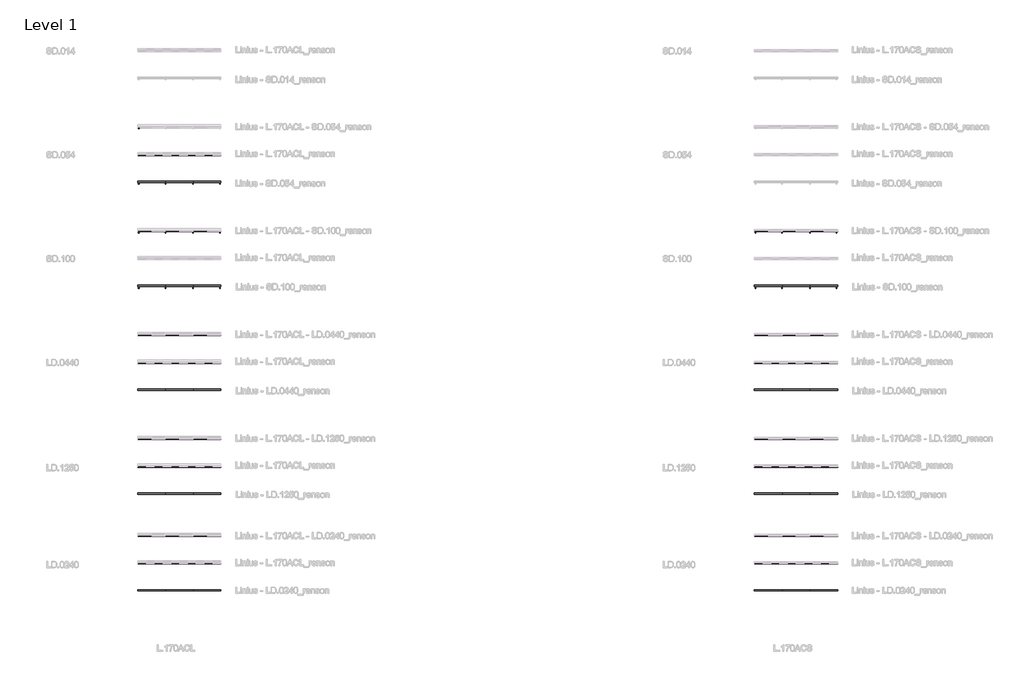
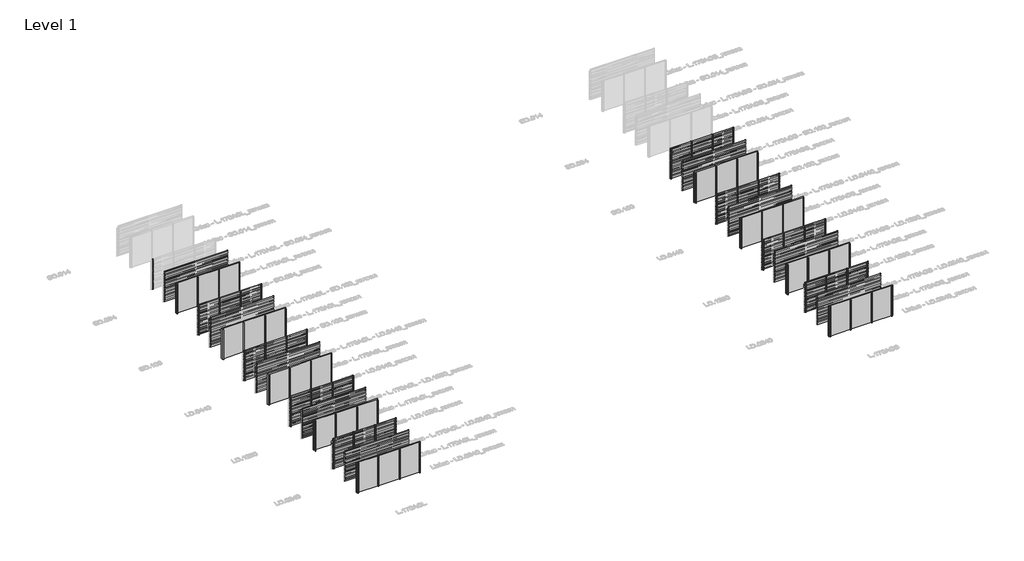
# One storey, part 1 of 121: 69 members, 60 plates.
"""IFC4 building model written with IfcOpenShell, lengths in millimetres."""

from ifc_helpers import new_model, si_unit, origin, origin_with_axes, place, context, project, spatial, polyline, outline, extrude, transform, mapped, element, save
from components import rectangular_mullion_6cf2c509, rectangular_mullion_8b77bd57, rectangular_mullion_2c867e25, rectangular_mullion_7803f5c4, rectangular_mullion_82152e2f, rectangular_mullion_9b796d85, rectangular_mullion_dfb17e98, rectangular_mullion_6132f1f1, rectangular_mullion_8f153c19, rectangular_mullion_5b30f3fd, rectangular_mullion_5e0e8e0a, rectangular_mullion_d2d38772, rectangular_mullion_efb80f74, rectangular_mullion_aaa1fb1b, rectangular_mullion_ea9d012c, empty_system_panel_empty_90a97279

model = new_model("IFC4")

# Units and contexts
model_context = context("Model", 3, world=origin())
ifc_project = project(units=[si_unit("LENGTHUNIT", "METRE", prefix="MILLI")], contexts=[model_context])

# Site, building, storey
site = spatial("IfcSite", under=ifc_project)
building = spatial("IfcBuilding", under=site)
storey = spatial("IfcBuildingStorey", under=building, Name="Level 1", Elevation=0.0)

# Members
placement = place(None, origin())
rectangular_mullion_shape = rectangular_mullion_6cf2c509(model_context)
element("IfcMember", 1, ObjectType="Rectangular Mullion : SD.054_renson", at=placement, inside=storey, context=model_context, shape_type="MappedRepresentation", body=[
    mapped(rectangular_mullion_shape, transform((4466.6208097, 32481.0540136, 0.0), x_axis=(-1.0, 0.0, 0.0), y_axis=(0.0, 1.0, 0.0), z_axis=(0.0, 0.0, -1.0))),
])
element("IfcMember", 2, ObjectType="Rectangular Mullion : SD.054_renson", at=placement, inside=storey, context=model_context, shape_type="MappedRepresentation", body=[
    mapped(rectangular_mullion_shape, transform((2466.6208097, 32481.0540136, 0.0), x_axis=(-1.0, 0.0, 0.0), y_axis=(0.0, 1.0, 0.0), z_axis=(0.0, 0.0, -1.0))),
])
rectangular_mullion_2_shape = rectangular_mullion_8b77bd57(model_context)
element("IfcMember", 3, ObjectType="Rectangular Mullion : SD.100_renson", at=placement, inside=storey, context=model_context, shape_type="MappedRepresentation", body=[
    mapped(rectangular_mullion_2_shape, transform((4466.6208097, 28981.0540136, 0.0), x_axis=(-1.0, 0.0, 0.0), y_axis=(0.0, 1.0, 0.0), z_axis=(0.0, 0.0, -1.0))),
])
element("IfcMember", 4, ObjectType="Rectangular Mullion : SD.100_renson", at=placement, inside=storey, context=model_context, shape_type="MappedRepresentation", body=[
    mapped(rectangular_mullion_2_shape, transform((2466.6208097, 28981.0540136, 0.0), x_axis=(-1.0, 0.0, 0.0), y_axis=(0.0, 1.0, 0.0), z_axis=(0.0, 0.0, -1.0))),
])
element("IfcMember", 5, ObjectType="Rectangular Mullion : SD.100_renson", at=placement, inside=storey, context=model_context, shape_type="MappedRepresentation", body=[
    mapped(rectangular_mullion_2_shape, transform((4466.6208097, 24981.0540136, 0.0), x_axis=(-1.0, 0.0, 0.0), y_axis=(0.0, 1.0, 0.0), z_axis=(0.0, 0.0, -1.0))),
])
element("IfcMember", 6, ObjectType="Rectangular Mullion : SD.100_renson", at=placement, inside=storey, context=model_context, shape_type="MappedRepresentation", body=[
    mapped(rectangular_mullion_2_shape, transform((2466.6208097, 24981.0540136, 0.0), x_axis=(-1.0, 0.0, 0.0), y_axis=(0.0, 1.0, 0.0), z_axis=(0.0, 0.0, -1.0))),
])
element("IfcMember", 7, ObjectType="Rectangular Mullion : SD.100_renson", at=placement, inside=storey, context=model_context, shape_type="MappedRepresentation", body=[
    mapped(rectangular_mullion_2_shape, transform((48966.6208097, 28981.0540136, 0.0), x_axis=(-1.0, 0.0, 0.0), y_axis=(0.0, 1.0, 0.0), z_axis=(0.0, 0.0, -1.0))),
])
element("IfcMember", 8, ObjectType="Rectangular Mullion : SD.100_renson", at=placement, inside=storey, context=model_context, shape_type="MappedRepresentation", body=[
    mapped(rectangular_mullion_2_shape, transform((46966.6208097, 28981.0540136, 0.0), x_axis=(-1.0, 0.0, 0.0), y_axis=(0.0, 1.0, 0.0), z_axis=(0.0, 0.0, -1.0))),
])
element("IfcMember", 9, ObjectType="Rectangular Mullion : SD.100_renson", at=placement, inside=storey, context=model_context, shape_type="MappedRepresentation", body=[
    mapped(rectangular_mullion_2_shape, transform((48966.6208097, 24981.0540136, 0.0), x_axis=(-1.0, 0.0, 0.0), y_axis=(0.0, 1.0, 0.0), z_axis=(0.0, 0.0, -1.0))),
])
element("IfcMember", 10, ObjectType="Rectangular Mullion : SD.100_renson", at=placement, inside=storey, context=model_context, shape_type="MappedRepresentation", body=[
    mapped(rectangular_mullion_2_shape, transform((46966.6208097, 24981.0540136, 0.0), x_axis=(-1.0, 0.0, 0.0), y_axis=(0.0, 1.0, 0.0), z_axis=(0.0, 0.0, -1.0))),
])
rectangular_mullion_3_shape = rectangular_mullion_2c867e25(model_context)
element("IfcMember", 11, ObjectType="Rectangular Mullion : LD.0440_renson", at=placement, inside=storey, context=model_context, shape_type="MappedRepresentation", body=[
    mapped(rectangular_mullion_3_shape, transform((4466.6208097, 21481.0540136, 0.0), x_axis=(-1.0, 0.0, 0.0), y_axis=(0.0, 1.0, 0.0), z_axis=(0.0, 0.0, -1.0))),
])
element("IfcMember", 12, ObjectType="Rectangular Mullion : LD.0440_renson", at=placement, inside=storey, context=model_context, shape_type="MappedRepresentation", body=[
    mapped(rectangular_mullion_3_shape, transform((2466.6208097, 21481.0540136, 0.0), x_axis=(-1.0, 0.0, 0.0), y_axis=(0.0, 1.0, 0.0), z_axis=(0.0, 0.0, -1.0))),
])
element("IfcMember", 13, ObjectType="Rectangular Mullion : LD.0440_renson", at=placement, inside=storey, context=model_context, shape_type="MappedRepresentation", body=[
    mapped(rectangular_mullion_3_shape, transform((4466.6208097, 17481.0540136, 0.0), x_axis=(-1.0, 0.0, 0.0), y_axis=(0.0, 1.0, 0.0), z_axis=(0.0, 0.0, -1.0))),
])
element("IfcMember", 14, ObjectType="Rectangular Mullion : LD.0440_renson", at=placement, inside=storey, context=model_context, shape_type="MappedRepresentation", body=[
    mapped(rectangular_mullion_3_shape, transform((2466.6208097, 17481.0540136, 0.0), x_axis=(-1.0, 0.0, 0.0), y_axis=(0.0, 1.0, 0.0), z_axis=(0.0, 0.0, -1.0))),
])
element("IfcMember", 15, ObjectType="Rectangular Mullion : LD.0440_renson", at=placement, inside=storey, context=model_context, shape_type="MappedRepresentation", body=[
    mapped(rectangular_mullion_3_shape, transform((48966.6208097, 21481.0540136, 0.0), x_axis=(-1.0, 0.0, 0.0), y_axis=(0.0, 1.0, 0.0), z_axis=(0.0, 0.0, -1.0))),
])
element("IfcMember", 16, ObjectType="Rectangular Mullion : LD.0440_renson", at=placement, inside=storey, context=model_context, shape_type="MappedRepresentation", body=[
    mapped(rectangular_mullion_3_shape, transform((46966.6208097, 21481.0540136, 0.0), x_axis=(-1.0, 0.0, 0.0), y_axis=(0.0, 1.0, 0.0), z_axis=(0.0, 0.0, -1.0))),
])
element("IfcMember", 17, ObjectType="Rectangular Mullion : LD.0440_renson", at=placement, inside=storey, context=model_context, shape_type="MappedRepresentation", body=[
    mapped(rectangular_mullion_3_shape, transform((48966.6208097, 17481.0540136, 0.0), x_axis=(-1.0, 0.0, 0.0), y_axis=(0.0, 1.0, 0.0), z_axis=(0.0, 0.0, -1.0))),
])
element("IfcMember", 18, ObjectType="Rectangular Mullion : LD.0440_renson", at=placement, inside=storey, context=model_context, shape_type="MappedRepresentation", body=[
    mapped(rectangular_mullion_3_shape, transform((46966.6208097, 17481.0540136, 0.0), x_axis=(-1.0, 0.0, 0.0), y_axis=(0.0, 1.0, 0.0), z_axis=(0.0, 0.0, -1.0))),
])
rectangular_mullion_4_shape = rectangular_mullion_7803f5c4(model_context)
element("IfcMember", 19, ObjectType="Rectangular Mullion : LD.1250_renson", at=placement, inside=storey, context=model_context, shape_type="MappedRepresentation", body=[
    mapped(rectangular_mullion_4_shape, transform((4466.6208097, 13981.0540136, 0.0), x_axis=(-1.0, 0.0, 0.0), y_axis=(0.0, 1.0, 0.0), z_axis=(0.0, 0.0, -1.0))),
])
element("IfcMember", 20, ObjectType="Rectangular Mullion : LD.1250_renson", at=placement, inside=storey, context=model_context, shape_type="MappedRepresentation", body=[
    mapped(rectangular_mullion_4_shape, transform((2466.6208097, 13981.0540136, 0.0), x_axis=(-1.0, 0.0, 0.0), y_axis=(0.0, 1.0, 0.0), z_axis=(0.0, 0.0, -1.0))),
])
element("IfcMember", 21, ObjectType="Rectangular Mullion : LD.1250_renson", at=placement, inside=storey, context=model_context, shape_type="MappedRepresentation", body=[
    mapped(rectangular_mullion_4_shape, transform((4466.6208097, 9981.0540136, 0.0), x_axis=(-1.0, 0.0, 0.0), y_axis=(0.0, 1.0, 0.0), z_axis=(0.0, 0.0, -1.0))),
])
element("IfcMember", 22, ObjectType="Rectangular Mullion : LD.1250_renson", at=placement, inside=storey, context=model_context, shape_type="MappedRepresentation", body=[
    mapped(rectangular_mullion_4_shape, transform((2466.6208097, 9981.0540136, 0.0), x_axis=(-1.0, 0.0, 0.0), y_axis=(0.0, 1.0, 0.0), z_axis=(0.0, 0.0, -1.0))),
])
element("IfcMember", 23, ObjectType="Rectangular Mullion : LD.1250_renson", at=placement, inside=storey, context=model_context, shape_type="MappedRepresentation", body=[
    mapped(rectangular_mullion_4_shape, transform((48966.6208097, 13981.0540136, 0.0), x_axis=(-1.0, 0.0, 0.0), y_axis=(0.0, 1.0, 0.0), z_axis=(0.0, 0.0, -1.0))),
])
element("IfcMember", 24, ObjectType="Rectangular Mullion : LD.1250_renson", at=placement, inside=storey, context=model_context, shape_type="MappedRepresentation", body=[
    mapped(rectangular_mullion_4_shape, transform((46966.6208097, 13981.0540136, 0.0), x_axis=(-1.0, 0.0, 0.0), y_axis=(0.0, 1.0, 0.0), z_axis=(0.0, 0.0, -1.0))),
])
element("IfcMember", 25, ObjectType="Rectangular Mullion : LD.1250_renson", at=placement, inside=storey, context=model_context, shape_type="MappedRepresentation", body=[
    mapped(rectangular_mullion_4_shape, transform((48966.6208097, 9981.0540136, 0.0), x_axis=(-1.0, 0.0, 0.0), y_axis=(0.0, 1.0, 0.0), z_axis=(0.0, 0.0, -1.0))),
])
element("IfcMember", 26, ObjectType="Rectangular Mullion : LD.1250_renson", at=placement, inside=storey, context=model_context, shape_type="MappedRepresentation", body=[
    mapped(rectangular_mullion_4_shape, transform((46966.6208097, 9981.0540136, 0.0), x_axis=(-1.0, 0.0, 0.0), y_axis=(0.0, 1.0, 0.0), z_axis=(0.0, 0.0, -1.0))),
])
rectangular_mullion_5_shape = rectangular_mullion_82152e2f(model_context)
element("IfcMember", 27, ObjectType="Rectangular Mullion : LD.0240_renson", at=placement, inside=storey, context=model_context, shape_type="MappedRepresentation", body=[
    mapped(rectangular_mullion_5_shape, transform((4466.6208097, 6985.0270068, 0.0), x_axis=(-1.0, 0.0, 0.0), y_axis=(0.0, 1.0, 0.0), z_axis=(0.0, 0.0, -1.0))),
])
element("IfcMember", 28, ObjectType="Rectangular Mullion : LD.0240_renson", at=placement, inside=storey, context=model_context, shape_type="MappedRepresentation", body=[
    mapped(rectangular_mullion_5_shape, transform((2466.6208097, 6985.0270068, 0.0), x_axis=(-1.0, 0.0, 0.0), y_axis=(0.0, 1.0, 0.0), z_axis=(0.0, 0.0, -1.0))),
])
element("IfcMember", 29, ObjectType="Rectangular Mullion : LD.0240_renson", at=placement, inside=storey, context=model_context, shape_type="MappedRepresentation", body=[
    mapped(rectangular_mullion_5_shape, transform((4466.6208097, 2985.0270068, 0.0), x_axis=(-1.0, 0.0, 0.0), y_axis=(0.0, 1.0, 0.0), z_axis=(0.0, 0.0, -1.0))),
])
element("IfcMember", 30, ObjectType="Rectangular Mullion : LD.0240_renson", at=placement, inside=storey, context=model_context, shape_type="MappedRepresentation", body=[
    mapped(rectangular_mullion_5_shape, transform((2466.6208097, 2985.0270068, 0.0), x_axis=(-1.0, 0.0, 0.0), y_axis=(0.0, 1.0, 0.0), z_axis=(0.0, 0.0, -1.0))),
])
element("IfcMember", 31, ObjectType="Rectangular Mullion : LD.0240_renson", at=placement, inside=storey, context=model_context, shape_type="MappedRepresentation", body=[
    mapped(rectangular_mullion_5_shape, transform((48966.6208097, 6985.0270068, 0.0), x_axis=(-1.0, 0.0, 0.0), y_axis=(0.0, 1.0, 0.0), z_axis=(0.0, 0.0, -1.0))),
])
element("IfcMember", 32, ObjectType="Rectangular Mullion : LD.0240_renson", at=placement, inside=storey, context=model_context, shape_type="MappedRepresentation", body=[
    mapped(rectangular_mullion_5_shape, transform((46966.6208097, 6985.0270068, 0.0), x_axis=(-1.0, 0.0, 0.0), y_axis=(0.0, 1.0, 0.0), z_axis=(0.0, 0.0, -1.0))),
])
element("IfcMember", 33, ObjectType="Rectangular Mullion : LD.0240_renson", at=placement, inside=storey, context=model_context, shape_type="MappedRepresentation", body=[
    mapped(rectangular_mullion_5_shape, transform((48966.6208097, 2985.0270068, 0.0), x_axis=(-1.0, 0.0, 0.0), y_axis=(0.0, 1.0, 0.0), z_axis=(0.0, 0.0, -1.0))),
])
element("IfcMember", 34, ObjectType="Rectangular Mullion : LD.0240_renson", at=placement, inside=storey, context=model_context, shape_type="MappedRepresentation", body=[
    mapped(rectangular_mullion_5_shape, transform((46966.6208097, 2985.0270068, 0.0), x_axis=(-1.0, 0.0, 0.0), y_axis=(0.0, 1.0, 0.0), z_axis=(0.0, 0.0, -1.0))),
])
rectangular_mullion_6_shape = rectangular_mullion_9b796d85(model_context)
element("IfcMember", 35, ObjectType="Rectangular Mullion : SD.054 - left_renson", at=placement, inside=storey, context=model_context, shape_type="MappedRepresentation", body=[
    mapped(rectangular_mullion_6_shape, transform((466.6208097, 36481.0540136, 0.0), x_axis=(-1.0, 0.0, 0.0), y_axis=(0.0, 1.0, 0.0), z_axis=(0.0, 0.0, -1.0))),
])
element("IfcMember", 36, ObjectType="Rectangular Mullion : SD.054 - left_renson", at=placement, inside=storey, context=model_context, shape_type="MappedRepresentation", body=[
    mapped(rectangular_mullion_6_shape, transform((466.6208097, 32481.0540136, 0.0), x_axis=(-1.0, 0.0, 0.0), y_axis=(0.0, 1.0, 0.0), z_axis=(0.0, 0.0, -1.0))),
])
rectangular_mullion_7_shape = rectangular_mullion_dfb17e98(model_context)
element("IfcMember", 37, ObjectType="Rectangular Mullion : SD.054 - right_renson", at=placement, inside=storey, context=model_context, shape_type="MappedRepresentation", body=[
    mapped(rectangular_mullion_7_shape, transform((6466.6208097, 32481.0540136, 3000.0), x_axis=(1.0, 0.0, 0.0), y_axis=(0.0, 1.0, 0.0), z_axis=(0.0, 0.0, 1.0))),
])
rectangular_mullion_8_shape = rectangular_mullion_6132f1f1(model_context)
element("IfcMember", 38, ObjectType="Rectangular Mullion : SD.100 - left_renson", at=placement, inside=storey, context=model_context, shape_type="MappedRepresentation", body=[
    mapped(rectangular_mullion_8_shape, transform((466.6208097, 28981.0540136, 0.0), x_axis=(-1.0, 0.0, 0.0), y_axis=(0.0, 1.0, 0.0), z_axis=(0.0, 0.0, -1.0))),
])
element("IfcMember", 39, ObjectType="Rectangular Mullion : SD.100 - left_renson", at=placement, inside=storey, context=model_context, shape_type="MappedRepresentation", body=[
    mapped(rectangular_mullion_8_shape, transform((466.6208097, 24981.0540136, 0.0), x_axis=(-1.0, 0.0, 0.0), y_axis=(0.0, 1.0, 0.0), z_axis=(0.0, 0.0, -1.0))),
])
element("IfcMember", 40, ObjectType="Rectangular Mullion : SD.100 - left_renson", at=placement, inside=storey, context=model_context, shape_type="MappedRepresentation", body=[
    mapped(rectangular_mullion_8_shape, transform((44966.6208097, 28981.0540136, 0.0), x_axis=(-1.0, 0.0, 0.0), y_axis=(0.0, 1.0, 0.0), z_axis=(0.0, 0.0, -1.0))),
])
element("IfcMember", 41, ObjectType="Rectangular Mullion : SD.100 - left_renson", at=placement, inside=storey, context=model_context, shape_type="MappedRepresentation", body=[
    mapped(rectangular_mullion_8_shape, transform((44966.6208097, 24981.0540136, 0.0), x_axis=(-1.0, 0.0, 0.0), y_axis=(0.0, 1.0, 0.0), z_axis=(0.0, 0.0, -1.0))),
])
rectangular_mullion_9_shape = rectangular_mullion_8f153c19(model_context)
element("IfcMember", 42, ObjectType="Rectangular Mullion : SD.100 - right_renson", at=placement, inside=storey, context=model_context, shape_type="MappedRepresentation", body=[
    mapped(rectangular_mullion_9_shape, transform((6466.6208097, 28981.0540136, 3000.0), x_axis=(1.0, 0.0, 0.0), y_axis=(0.0, 1.0, 0.0), z_axis=(0.0, 0.0, 1.0))),
])
element("IfcMember", 43, ObjectType="Rectangular Mullion : SD.100 - right_renson", at=placement, inside=storey, context=model_context, shape_type="MappedRepresentation", body=[
    mapped(rectangular_mullion_9_shape, transform((6466.6208097, 24981.0540136, 3000.0), x_axis=(1.0, 0.0, 0.0), y_axis=(0.0, 1.0, 0.0), z_axis=(0.0, 0.0, 1.0))),
])
element("IfcMember", 44, ObjectType="Rectangular Mullion : SD.100 - right_renson", at=placement, inside=storey, context=model_context, shape_type="MappedRepresentation", body=[
    mapped(rectangular_mullion_9_shape, transform((50966.6208097, 28981.0540136, 3000.0), x_axis=(1.0, 0.0, 0.0), y_axis=(0.0, 1.0, 0.0), z_axis=(0.0, 0.0, 1.0))),
])
element("IfcMember", 45, ObjectType="Rectangular Mullion : SD.100 - right_renson", at=placement, inside=storey, context=model_context, shape_type="MappedRepresentation", body=[
    mapped(rectangular_mullion_9_shape, transform((50966.6208097, 24981.0540136, 3000.0), x_axis=(1.0, 0.0, 0.0), y_axis=(0.0, 1.0, 0.0), z_axis=(0.0, 0.0, 1.0))),
])
rectangular_mullion_10_shape = rectangular_mullion_5b30f3fd(model_context)
element("IfcMember", 46, ObjectType="Rectangular Mullion : LD.0440 - left_renson", at=placement, inside=storey, context=model_context, shape_type="MappedRepresentation", body=[
    mapped(rectangular_mullion_10_shape, transform((466.6208097, 21481.0540136, 0.0), x_axis=(-1.0, 0.0, 0.0), y_axis=(0.0, 1.0, 0.0), z_axis=(0.0, 0.0, -1.0))),
])
element("IfcMember", 47, ObjectType="Rectangular Mullion : LD.0440 - left_renson", at=placement, inside=storey, context=model_context, shape_type="MappedRepresentation", body=[
    mapped(rectangular_mullion_10_shape, transform((466.6208097, 17481.0540136, 0.0), x_axis=(-1.0, 0.0, 0.0), y_axis=(0.0, 1.0, 0.0), z_axis=(0.0, 0.0, -1.0))),
])
element("IfcMember", 48, ObjectType="Rectangular Mullion : LD.0440 - left_renson", at=placement, inside=storey, context=model_context, shape_type="MappedRepresentation", body=[
    mapped(rectangular_mullion_10_shape, transform((44966.6208097, 21481.0540136, 0.0), x_axis=(-1.0, 0.0, 0.0), y_axis=(0.0, 1.0, 0.0), z_axis=(0.0, 0.0, -1.0))),
])
element("IfcMember", 49, ObjectType="Rectangular Mullion : LD.0440 - left_renson", at=placement, inside=storey, context=model_context, shape_type="MappedRepresentation", body=[
    mapped(rectangular_mullion_10_shape, transform((44966.6208097, 17481.0540136, 0.0), x_axis=(-1.0, 0.0, 0.0), y_axis=(0.0, 1.0, 0.0), z_axis=(0.0, 0.0, -1.0))),
])
rectangular_mullion_11_shape = rectangular_mullion_5e0e8e0a(model_context)
element("IfcMember", 50, ObjectType="Rectangular Mullion : LD.0440 - right_renson", at=placement, inside=storey, context=model_context, shape_type="MappedRepresentation", body=[
    mapped(rectangular_mullion_11_shape, transform((6466.6208097, 21481.0540136, 3000.0), x_axis=(1.0, 0.0, 0.0), y_axis=(0.0, 1.0, 0.0), z_axis=(0.0, 0.0, 1.0))),
])
element("IfcMember", 51, ObjectType="Rectangular Mullion : LD.0440 - right_renson", at=placement, inside=storey, context=model_context, shape_type="MappedRepresentation", body=[
    mapped(rectangular_mullion_11_shape, transform((6466.6208097, 17481.0540136, 3000.0), x_axis=(1.0, 0.0, 0.0), y_axis=(0.0, 1.0, 0.0), z_axis=(0.0, 0.0, 1.0))),
])
element("IfcMember", 52, ObjectType="Rectangular Mullion : LD.0440 - right_renson", at=placement, inside=storey, context=model_context, shape_type="MappedRepresentation", body=[
    mapped(rectangular_mullion_11_shape, transform((50966.6208097, 21481.0540136, 3000.0), x_axis=(1.0, 0.0, 0.0), y_axis=(0.0, 1.0, 0.0), z_axis=(0.0, 0.0, 1.0))),
])
element("IfcMember", 53, ObjectType="Rectangular Mullion : LD.0440 - right_renson", at=placement, inside=storey, context=model_context, shape_type="MappedRepresentation", body=[
    mapped(rectangular_mullion_11_shape, transform((50966.6208097, 17481.0540136, 3000.0), x_axis=(1.0, 0.0, 0.0), y_axis=(0.0, 1.0, 0.0), z_axis=(0.0, 0.0, 1.0))),
])
rectangular_mullion_12_shape = rectangular_mullion_d2d38772(model_context)
element("IfcMember", 54, ObjectType="Rectangular Mullion : LD.1250 - left_renson", at=placement, inside=storey, context=model_context, shape_type="MappedRepresentation", body=[
    mapped(rectangular_mullion_12_shape, transform((466.6208097, 13981.0540136, 0.0), x_axis=(-1.0, 0.0, 0.0), y_axis=(0.0, 1.0, 0.0), z_axis=(0.0, 0.0, -1.0))),
])
element("IfcMember", 55, ObjectType="Rectangular Mullion : LD.1250 - left_renson", at=placement, inside=storey, context=model_context, shape_type="MappedRepresentation", body=[
    mapped(rectangular_mullion_12_shape, transform((466.6208097, 9981.0540136, 0.0), x_axis=(-1.0, 0.0, 0.0), y_axis=(0.0, 1.0, 0.0), z_axis=(0.0, 0.0, -1.0))),
])
element("IfcMember", 56, ObjectType="Rectangular Mullion : LD.1250 - left_renson", at=placement, inside=storey, context=model_context, shape_type="MappedRepresentation", body=[
    mapped(rectangular_mullion_12_shape, transform((44966.6208097, 13981.0540136, 0.0), x_axis=(-1.0, 0.0, 0.0), y_axis=(0.0, 1.0, 0.0), z_axis=(0.0, 0.0, -1.0))),
])
element("IfcMember", 57, ObjectType="Rectangular Mullion : LD.1250 - left_renson", at=placement, inside=storey, context=model_context, shape_type="MappedRepresentation", body=[
    mapped(rectangular_mullion_12_shape, transform((44966.6208097, 9981.0540136, 0.0), x_axis=(-1.0, 0.0, 0.0), y_axis=(0.0, 1.0, 0.0), z_axis=(0.0, 0.0, -1.0))),
])
rectangular_mullion_13_shape = rectangular_mullion_efb80f74(model_context)
element("IfcMember", 58, ObjectType="Rectangular Mullion : LD.1250 - right_renson", at=placement, inside=storey, context=model_context, shape_type="MappedRepresentation", body=[
    mapped(rectangular_mullion_13_shape, transform((6466.6208097, 13981.0540136, 3000.0), x_axis=(1.0, 0.0, 0.0), y_axis=(0.0, 1.0, 0.0), z_axis=(0.0, 0.0, 1.0))),
])
element("IfcMember", 59, ObjectType="Rectangular Mullion : LD.1250 - right_renson", at=placement, inside=storey, context=model_context, shape_type="MappedRepresentation", body=[
    mapped(rectangular_mullion_13_shape, transform((6466.6208097, 9981.0540136, 3000.0), x_axis=(1.0, 0.0, 0.0), y_axis=(0.0, 1.0, 0.0), z_axis=(0.0, 0.0, 1.0))),
])
element("IfcMember", 60, ObjectType="Rectangular Mullion : LD.1250 - right_renson", at=placement, inside=storey, context=model_context, shape_type="MappedRepresentation", body=[
    mapped(rectangular_mullion_13_shape, transform((50966.6208097, 13981.0540136, 3000.0), x_axis=(1.0, 0.0, 0.0), y_axis=(0.0, 1.0, 0.0), z_axis=(0.0, 0.0, 1.0))),
])
element("IfcMember", 61, ObjectType="Rectangular Mullion : LD.1250 - right_renson", at=placement, inside=storey, context=model_context, shape_type="MappedRepresentation", body=[
    mapped(rectangular_mullion_13_shape, transform((50966.6208097, 9981.0540136, 3000.0), x_axis=(1.0, 0.0, 0.0), y_axis=(0.0, 1.0, 0.0), z_axis=(0.0, 0.0, 1.0))),
])
rectangular_mullion_14_shape = rectangular_mullion_aaa1fb1b(model_context)
element("IfcMember", 62, ObjectType="Rectangular Mullion : LD.0240 - left_renson", at=placement, inside=storey, context=model_context, shape_type="MappedRepresentation", body=[
    mapped(rectangular_mullion_14_shape, transform((466.6208097, 6985.0270068, 0.0), x_axis=(-1.0, 0.0, 0.0), y_axis=(0.0, 1.0, 0.0), z_axis=(0.0, 0.0, -1.0))),
])
element("IfcMember", 63, ObjectType="Rectangular Mullion : LD.0240 - left_renson", at=placement, inside=storey, context=model_context, shape_type="MappedRepresentation", body=[
    mapped(rectangular_mullion_14_shape, transform((466.6208097, 2985.0270068, 0.0), x_axis=(-1.0, 0.0, 0.0), y_axis=(0.0, 1.0, 0.0), z_axis=(0.0, 0.0, -1.0))),
])
element("IfcMember", 64, ObjectType="Rectangular Mullion : LD.0240 - left_renson", at=placement, inside=storey, context=model_context, shape_type="MappedRepresentation", body=[
    mapped(rectangular_mullion_14_shape, transform((44966.6208097, 6985.0270068, 0.0), x_axis=(-1.0, 0.0, 0.0), y_axis=(0.0, 1.0, 0.0), z_axis=(0.0, 0.0, -1.0))),
])
element("IfcMember", 65, ObjectType="Rectangular Mullion : LD.0240 - left_renson", at=placement, inside=storey, context=model_context, shape_type="MappedRepresentation", body=[
    mapped(rectangular_mullion_14_shape, transform((44966.6208097, 2985.0270068, 0.0), x_axis=(-1.0, 0.0, 0.0), y_axis=(0.0, 1.0, 0.0), z_axis=(0.0, 0.0, -1.0))),
])
rectangular_mullion_15_shape = rectangular_mullion_ea9d012c(model_context)
element("IfcMember", 66, ObjectType="Rectangular Mullion : LD.0240 - right_renson", at=placement, inside=storey, context=model_context, shape_type="MappedRepresentation", body=[
    mapped(rectangular_mullion_15_shape, transform((6466.6208097, 6985.0270068, 3000.0), x_axis=(1.0, 0.0, 0.0), y_axis=(0.0, 1.0, 0.0), z_axis=(0.0, 0.0, 1.0))),
])
element("IfcMember", 67, ObjectType="Rectangular Mullion : LD.0240 - right_renson", at=placement, inside=storey, context=model_context, shape_type="MappedRepresentation", body=[
    mapped(rectangular_mullion_15_shape, transform((6466.6208097, 2985.0270068, 3000.0), x_axis=(1.0, 0.0, 0.0), y_axis=(0.0, 1.0, 0.0), z_axis=(0.0, 0.0, 1.0))),
])
element("IfcMember", 68, ObjectType="Rectangular Mullion : LD.0240 - right_renson", at=placement, inside=storey, context=model_context, shape_type="MappedRepresentation", body=[
    mapped(rectangular_mullion_15_shape, transform((50966.6208097, 6985.0270068, 3000.0), x_axis=(1.0, 0.0, 0.0), y_axis=(0.0, 1.0, 0.0), z_axis=(0.0, 0.0, 1.0))),
])
element("IfcMember", 69, ObjectType="Rectangular Mullion : LD.0240 - right_renson", at=placement, inside=storey, context=model_context, shape_type="MappedRepresentation", body=[
    mapped(rectangular_mullion_15_shape, transform((50966.6208097, 2985.0270068, 3000.0), x_axis=(1.0, 0.0, 0.0), y_axis=(0.0, 1.0, 0.0), z_axis=(0.0, 0.0, 1.0))),
])

# Plates
element("IfcPlate", 70, ObjectType="Linius - L.170ACL_renson", at=placement, inside=storey, context=model_context, shape_type="SweptSolid", body=[
    extrude(outline(polyline([(466.6208097, 34482.0540136), (6466.6208097, 34482.0540136), (6466.6208097, 34480.0540136), (466.6208097, 34480.0540136), (466.6208097, 34482.0540136)])), origin_with_axes(), (0.0, 0.0, 1.0), 3000.0),
])
element("IfcPlate", 71, ObjectType="Linius - L.170ACL_renson", at=placement, inside=storey, context=model_context, shape_type="SweptSolid", body=[
    extrude(outline(polyline([(466.6208097, 28982.0540136), (2466.6208097, 28982.0540136), (2466.6208097, 28980.0540136), (466.6208097, 28980.0540136), (466.6208097, 28982.0540136)])), origin_with_axes(), (0.0, 0.0, 1.0), 3000.0),
])
element("IfcPlate", 72, ObjectType="Linius - L.170ACL_renson", at=placement, inside=storey, context=model_context, shape_type="SweptSolid", body=[
    extrude(outline(polyline([(2466.6208097, 28982.0540136), (4466.6208097, 28982.0540136), (4466.6208097, 28980.0540136), (2466.6208097, 28980.0540136), (2466.6208097, 28982.0540136)])), origin_with_axes(), (0.0, 0.0, 1.0), 3000.0),
])
element("IfcPlate", 73, ObjectType="Linius - L.170ACL_renson", at=placement, inside=storey, context=model_context, shape_type="SweptSolid", body=[
    extrude(outline(polyline([(4466.6208097, 28982.0540136), (6466.6208097, 28982.0540136), (6466.6208097, 28980.0540136), (4466.6208097, 28980.0540136), (4466.6208097, 28982.0540136)])), origin_with_axes(), (0.0, 0.0, 1.0), 3000.0),
])
element("IfcPlate", 74, ObjectType="Linius - L.170ACL_renson", at=placement, inside=storey, context=model_context, shape_type="SweptSolid", body=[
    extrude(outline(polyline([(466.6208097, 26982.0540136), (6466.6208097, 26982.0540136), (6466.6208097, 26980.0540136), (466.6208097, 26980.0540136), (466.6208097, 26982.0540136)])), origin_with_axes(), (0.0, 0.0, 1.0), 3000.0),
])
element("IfcPlate", 75, ObjectType="Linius - L.170ACL_renson", at=placement, inside=storey, context=model_context, shape_type="SweptSolid", body=[
    extrude(outline(polyline([(466.6208097, 21482.0540136), (2466.6208097, 21482.0540136), (2466.6208097, 21480.0540136), (466.6208097, 21480.0540136), (466.6208097, 21482.0540136)])), origin_with_axes(), (0.0, 0.0, 1.0), 3000.0),
])
element("IfcPlate", 76, ObjectType="Linius - L.170ACL_renson", at=placement, inside=storey, context=model_context, shape_type="SweptSolid", body=[
    extrude(outline(polyline([(2466.6208097, 21482.0540136), (4466.6208097, 21482.0540136), (4466.6208097, 21480.0540136), (2466.6208097, 21480.0540136), (2466.6208097, 21482.0540136)])), origin_with_axes(), (0.0, 0.0, 1.0), 3000.0),
])
element("IfcPlate", 77, ObjectType="Linius - L.170ACL_renson", at=placement, inside=storey, context=model_context, shape_type="SweptSolid", body=[
    extrude(outline(polyline([(4466.6208097, 21482.0540136), (6466.6208097, 21482.0540136), (6466.6208097, 21480.0540136), (4466.6208097, 21480.0540136), (4466.6208097, 21482.0540136)])), origin_with_axes(), (0.0, 0.0, 1.0), 3000.0),
])
element("IfcPlate", 78, ObjectType="Linius - L.170ACL_renson", at=placement, inside=storey, context=model_context, shape_type="SweptSolid", body=[
    extrude(outline(polyline([(466.6208097, 19482.0540136), (6466.6208097, 19482.0540136), (6466.6208097, 19480.0540136), (466.6208097, 19480.0540136), (466.6208097, 19482.0540136)])), origin_with_axes(), (0.0, 0.0, 1.0), 3000.0),
])
element("IfcPlate", 79, ObjectType="Linius - L.170ACL_renson", at=placement, inside=storey, context=model_context, shape_type="SweptSolid", body=[
    extrude(outline(polyline([(466.6208097, 13982.0540136), (2466.6208097, 13982.0540136), (2466.6208097, 13980.0540136), (466.6208097, 13980.0540136), (466.6208097, 13982.0540136)])), origin_with_axes(), (0.0, 0.0, 1.0), 3000.0),
])
element("IfcPlate", 80, ObjectType="Linius - L.170ACL_renson", at=placement, inside=storey, context=model_context, shape_type="SweptSolid", body=[
    extrude(outline(polyline([(2466.6208097, 13982.0540136), (4466.6208097, 13982.0540136), (4466.6208097, 13980.0540136), (2466.6208097, 13980.0540136), (2466.6208097, 13982.0540136)])), origin_with_axes(), (0.0, 0.0, 1.0), 3000.0),
])
element("IfcPlate", 81, ObjectType="Linius - L.170ACL_renson", at=placement, inside=storey, context=model_context, shape_type="SweptSolid", body=[
    extrude(outline(polyline([(4466.6208097, 13982.0540136), (6466.6208097, 13982.0540136), (6466.6208097, 13980.0540136), (4466.6208097, 13980.0540136), (4466.6208097, 13982.0540136)])), origin_with_axes(), (0.0, 0.0, 1.0), 3000.0),
])
element("IfcPlate", 82, ObjectType="Linius - L.170ACL_renson", at=placement, inside=storey, context=model_context, shape_type="SweptSolid", body=[
    extrude(outline(polyline([(466.6208097, 11982.0540136), (6466.6208097, 11982.0540136), (6466.6208097, 11980.0540136), (466.6208097, 11980.0540136), (466.6208097, 11982.0540136)])), origin_with_axes(), (0.0, 0.0, 1.0), 3000.0),
])
element("IfcPlate", 83, ObjectType="Linius - L.170ACL_renson", at=placement, inside=storey, context=model_context, shape_type="SweptSolid", body=[
    extrude(outline(polyline([(466.6208097, 6986.0270068), (2466.6208097, 6986.0270068), (2466.6208097, 6984.0270068), (466.6208097, 6984.0270068), (466.6208097, 6986.0270068)])), origin_with_axes(), (0.0, 0.0, 1.0), 3000.0),
])
element("IfcPlate", 84, ObjectType="Linius - L.170ACL_renson", at=placement, inside=storey, context=model_context, shape_type="SweptSolid", body=[
    extrude(outline(polyline([(2466.6208097, 6986.0270068), (4466.6208097, 6986.0270068), (4466.6208097, 6984.0270068), (2466.6208097, 6984.0270068), (2466.6208097, 6986.0270068)])), origin_with_axes(), (0.0, 0.0, 1.0), 3000.0),
])
element("IfcPlate", 85, ObjectType="Linius - L.170ACL_renson", at=placement, inside=storey, context=model_context, shape_type="SweptSolid", body=[
    extrude(outline(polyline([(4466.6208097, 6986.0270068), (6466.6208097, 6986.0270068), (6466.6208097, 6984.0270068), (4466.6208097, 6984.0270068), (4466.6208097, 6986.0270068)])), origin_with_axes(), (0.0, 0.0, 1.0), 3000.0),
])
element("IfcPlate", 86, ObjectType="Linius - L.170ACL_renson", at=placement, inside=storey, context=model_context, shape_type="SweptSolid", body=[
    extrude(outline(polyline([(466.6208097, 4986.0270068), (6466.6208097, 4986.0270068), (6466.6208097, 4984.0270068), (466.6208097, 4984.0270068), (466.6208097, 4986.0270068)])), origin_with_axes(), (0.0, 0.0, 1.0), 3000.0),
])
element("IfcPlate", 87, ObjectType="Linius - L.170ACS_renson", at=placement, inside=storey, context=model_context, shape_type="SweptSolid", body=[
    extrude(outline(polyline([(44966.6208097, 28982.0540136), (46966.6208097, 28982.0540136), (46966.6208097, 28980.0540136), (44966.6208097, 28980.0540136), (44966.6208097, 28982.0540136)])), origin_with_axes(), (0.0, 0.0, 1.0), 3000.0),
])
element("IfcPlate", 88, ObjectType="Linius - L.170ACS_renson", at=placement, inside=storey, context=model_context, shape_type="SweptSolid", body=[
    extrude(outline(polyline([(46966.6208097, 28982.0540136), (48966.6208097, 28982.0540136), (48966.6208097, 28980.0540136), (46966.6208097, 28980.0540136), (46966.6208097, 28982.0540136)])), origin_with_axes(), (0.0, 0.0, 1.0), 3000.0),
])
element("IfcPlate", 89, ObjectType="Linius - L.170ACS_renson", at=placement, inside=storey, context=model_context, shape_type="SweptSolid", body=[
    extrude(outline(polyline([(48966.6208097, 28982.0540136), (50966.6208097, 28982.0540136), (50966.6208097, 28980.0540136), (48966.6208097, 28980.0540136), (48966.6208097, 28982.0540136)])), origin_with_axes(), (0.0, 0.0, 1.0), 3000.0),
])
element("IfcPlate", 90, ObjectType="Linius - L.170ACS_renson", at=placement, inside=storey, context=model_context, shape_type="SweptSolid", body=[
    extrude(outline(polyline([(44966.6208097, 26982.0540136), (50966.6208097, 26982.0540136), (50966.6208097, 26980.0540136), (44966.6208097, 26980.0540136), (44966.6208097, 26982.0540136)])), origin_with_axes(), (0.0, 0.0, 1.0), 3000.0),
])
element("IfcPlate", 91, ObjectType="Linius - L.170ACS_renson", at=placement, inside=storey, context=model_context, shape_type="SweptSolid", body=[
    extrude(outline(polyline([(44966.6208097, 21482.0540136), (46966.6208097, 21482.0540136), (46966.6208097, 21480.0540136), (44966.6208097, 21480.0540136), (44966.6208097, 21482.0540136)])), origin_with_axes(), (0.0, 0.0, 1.0), 3000.0),
])
element("IfcPlate", 92, ObjectType="Linius - L.170ACS_renson", at=placement, inside=storey, context=model_context, shape_type="SweptSolid", body=[
    extrude(outline(polyline([(46966.6208097, 21482.0540136), (48966.6208097, 21482.0540136), (48966.6208097, 21480.0540136), (46966.6208097, 21480.0540136), (46966.6208097, 21482.0540136)])), origin_with_axes(), (0.0, 0.0, 1.0), 3000.0),
])
element("IfcPlate", 93, ObjectType="Linius - L.170ACS_renson", at=placement, inside=storey, context=model_context, shape_type="SweptSolid", body=[
    extrude(outline(polyline([(48966.6208097, 21482.0540136), (50966.6208097, 21482.0540136), (50966.6208097, 21480.0540136), (48966.6208097, 21480.0540136), (48966.6208097, 21482.0540136)])), origin_with_axes(), (0.0, 0.0, 1.0), 3000.0),
])
element("IfcPlate", 94, ObjectType="Linius - L.170ACS_renson", at=placement, inside=storey, context=model_context, shape_type="SweptSolid", body=[
    extrude(outline(polyline([(44966.6208097, 19482.0540136), (50966.6208097, 19482.0540136), (50966.6208097, 19480.0540136), (44966.6208097, 19480.0540136), (44966.6208097, 19482.0540136)])), origin_with_axes(), (0.0, 0.0, 1.0), 3000.0),
])
element("IfcPlate", 95, ObjectType="Linius - L.170ACS_renson", at=placement, inside=storey, context=model_context, shape_type="SweptSolid", body=[
    extrude(outline(polyline([(44966.6208097, 13982.0540136), (46966.6208097, 13982.0540136), (46966.6208097, 13980.0540136), (44966.6208097, 13980.0540136), (44966.6208097, 13982.0540136)])), origin_with_axes(), (0.0, 0.0, 1.0), 3000.0),
])
element("IfcPlate", 96, ObjectType="Linius - L.170ACS_renson", at=placement, inside=storey, context=model_context, shape_type="SweptSolid", body=[
    extrude(outline(polyline([(46966.6208097, 13982.0540136), (48966.6208097, 13982.0540136), (48966.6208097, 13980.0540136), (46966.6208097, 13980.0540136), (46966.6208097, 13982.0540136)])), origin_with_axes(), (0.0, 0.0, 1.0), 3000.0),
])
element("IfcPlate", 97, ObjectType="Linius - L.170ACS_renson", at=placement, inside=storey, context=model_context, shape_type="SweptSolid", body=[
    extrude(outline(polyline([(48966.6208097, 13982.0540136), (50966.6208097, 13982.0540136), (50966.6208097, 13980.0540136), (48966.6208097, 13980.0540136), (48966.6208097, 13982.0540136)])), origin_with_axes(), (0.0, 0.0, 1.0), 3000.0),
])
element("IfcPlate", 98, ObjectType="Linius - L.170ACS_renson", at=placement, inside=storey, context=model_context, shape_type="SweptSolid", body=[
    extrude(outline(polyline([(44966.6208097, 11982.0540136), (50966.6208097, 11982.0540136), (50966.6208097, 11980.0540136), (44966.6208097, 11980.0540136), (44966.6208097, 11982.0540136)])), origin_with_axes(), (0.0, 0.0, 1.0), 3000.0),
])
element("IfcPlate", 99, ObjectType="Linius - L.170ACS_renson", at=placement, inside=storey, context=model_context, shape_type="SweptSolid", body=[
    extrude(outline(polyline([(44966.6208097, 6986.0270068), (46966.6208097, 6986.0270068), (46966.6208097, 6984.0270068), (44966.6208097, 6984.0270068), (44966.6208097, 6986.0270068)])), origin_with_axes(), (0.0, 0.0, 1.0), 3000.0),
])
element("IfcPlate", 100, ObjectType="Linius - L.170ACS_renson", at=placement, inside=storey, context=model_context, shape_type="SweptSolid", body=[
    extrude(outline(polyline([(46966.6208097, 6986.0270068), (48966.6208097, 6986.0270068), (48966.6208097, 6984.0270068), (46966.6208097, 6984.0270068), (46966.6208097, 6986.0270068)])), origin_with_axes(), (0.0, 0.0, 1.0), 3000.0),
])
element("IfcPlate", 101, ObjectType="Linius - L.170ACS_renson", at=placement, inside=storey, context=model_context, shape_type="SweptSolid", body=[
    extrude(outline(polyline([(48966.6208097, 6986.0270068), (50966.6208097, 6986.0270068), (50966.6208097, 6984.0270068), (48966.6208097, 6984.0270068), (48966.6208097, 6986.0270068)])), origin_with_axes(), (0.0, 0.0, 1.0), 3000.0),
])
element("IfcPlate", 102, ObjectType="Linius - L.170ACS_renson", at=placement, inside=storey, context=model_context, shape_type="SweptSolid", body=[
    extrude(outline(polyline([(44966.6208097, 4986.0270068), (50966.6208097, 4986.0270068), (50966.6208097, 4984.0270068), (44966.6208097, 4984.0270068), (44966.6208097, 4986.0270068)])), origin_with_axes(), (0.0, 0.0, 1.0), 3000.0),
])
empty_system_panel_empty_shape = empty_system_panel_empty_90a97279(model_context)
element("IfcPlate", 103, ObjectType="Empty System Panel : Empty", at=placement, inside=storey, context=model_context, shape_type="MappedRepresentation", body=[
    mapped(empty_system_panel_empty_shape, transform((5466.6208097, 32481.0540136, 0.0), x_axis=(-1.0, 0.0, 0.0), y_axis=(0.0, -1.0, 0.0), z_axis=(0.0, 0.0, 1.0))),
])
element("IfcPlate", 104, ObjectType="Empty System Panel : Empty", at=placement, inside=storey, context=model_context, shape_type="MappedRepresentation", body=[
    mapped(empty_system_panel_empty_shape, transform((5466.6208097, 24981.0540136, 0.0), x_axis=(-1.0, 0.0, 0.0), y_axis=(0.0, -1.0, 0.0), z_axis=(0.0, 0.0, 1.0))),
])
element("IfcPlate", 105, ObjectType="Empty System Panel : Empty", at=placement, inside=storey, context=model_context, shape_type="MappedRepresentation", body=[
    mapped(empty_system_panel_empty_shape, transform((5466.6208097, 17481.0540136, 0.0), x_axis=(-1.0, 0.0, 0.0), y_axis=(0.0, -1.0, 0.0), z_axis=(0.0, 0.0, 1.0))),
])
element("IfcPlate", 106, ObjectType="Empty System Panel : Empty", at=placement, inside=storey, context=model_context, shape_type="MappedRepresentation", body=[
    mapped(empty_system_panel_empty_shape, transform((5466.6208097, 9981.0540136, 0.0), x_axis=(-1.0, 0.0, 0.0), y_axis=(0.0, -1.0, 0.0), z_axis=(0.0, 0.0, 1.0))),
])
element("IfcPlate", 107, ObjectType="Empty System Panel : Empty", at=placement, inside=storey, context=model_context, shape_type="MappedRepresentation", body=[
    mapped(empty_system_panel_empty_shape, transform((5466.6208097, 2985.0270068, 0.0), x_axis=(-1.0, 0.0, 0.0), y_axis=(0.0, -1.0, 0.0), z_axis=(0.0, 0.0, 1.0))),
])
element("IfcPlate", 108, ObjectType="Empty System Panel : Empty", at=placement, inside=storey, context=model_context, shape_type="MappedRepresentation", body=[
    mapped(empty_system_panel_empty_shape, transform((3466.6208097, 32481.0540136, 0.0), x_axis=(-1.0, 0.0, 0.0), y_axis=(0.0, -1.0, 0.0), z_axis=(0.0, 0.0, 1.0))),
])
element("IfcPlate", 109, ObjectType="Empty System Panel : Empty", at=placement, inside=storey, context=model_context, shape_type="MappedRepresentation", body=[
    mapped(empty_system_panel_empty_shape, transform((1466.6208097, 32481.0540136, 0.0), x_axis=(-1.0, 0.0, 0.0), y_axis=(0.0, -1.0, 0.0), z_axis=(0.0, 0.0, 1.0))),
])
element("IfcPlate", 110, ObjectType="Empty System Panel : Empty", at=placement, inside=storey, context=model_context, shape_type="MappedRepresentation", body=[
    mapped(empty_system_panel_empty_shape, transform((3466.6208097, 24981.0540136, 0.0), x_axis=(-1.0, 0.0, 0.0), y_axis=(0.0, -1.0, 0.0), z_axis=(0.0, 0.0, 1.0))),
])
element("IfcPlate", 111, ObjectType="Empty System Panel : Empty", at=placement, inside=storey, context=model_context, shape_type="MappedRepresentation", body=[
    mapped(empty_system_panel_empty_shape, transform((1466.6208097, 24981.0540136, 0.0), x_axis=(-1.0, 0.0, 0.0), y_axis=(0.0, -1.0, 0.0), z_axis=(0.0, 0.0, 1.0))),
])
element("IfcPlate", 112, ObjectType="Empty System Panel : Empty", at=placement, inside=storey, context=model_context, shape_type="MappedRepresentation", body=[
    mapped(empty_system_panel_empty_shape, transform((3466.6208097, 17481.0540136, 0.0), x_axis=(-1.0, 0.0, 0.0), y_axis=(0.0, -1.0, 0.0), z_axis=(0.0, 0.0, 1.0))),
])
element("IfcPlate", 113, ObjectType="Empty System Panel : Empty", at=placement, inside=storey, context=model_context, shape_type="MappedRepresentation", body=[
    mapped(empty_system_panel_empty_shape, transform((1466.6208097, 17481.0540136, 0.0), x_axis=(-1.0, 0.0, 0.0), y_axis=(0.0, -1.0, 0.0), z_axis=(0.0, 0.0, 1.0))),
])
element("IfcPlate", 114, ObjectType="Empty System Panel : Empty", at=placement, inside=storey, context=model_context, shape_type="MappedRepresentation", body=[
    mapped(empty_system_panel_empty_shape, transform((3466.6208097, 9981.0540136, 0.0), x_axis=(-1.0, 0.0, 0.0), y_axis=(0.0, -1.0, 0.0), z_axis=(0.0, 0.0, 1.0))),
])
element("IfcPlate", 115, ObjectType="Empty System Panel : Empty", at=placement, inside=storey, context=model_context, shape_type="MappedRepresentation", body=[
    mapped(empty_system_panel_empty_shape, transform((1466.6208097, 9981.0540136, 0.0), x_axis=(-1.0, 0.0, 0.0), y_axis=(0.0, -1.0, 0.0), z_axis=(0.0, 0.0, 1.0))),
])
element("IfcPlate", 116, ObjectType="Empty System Panel : Empty", at=placement, inside=storey, context=model_context, shape_type="MappedRepresentation", body=[
    mapped(empty_system_panel_empty_shape, transform((3466.6208097, 2985.0270068, 0.0), x_axis=(-1.0, 0.0, 0.0), y_axis=(0.0, -1.0, 0.0), z_axis=(0.0, 0.0, 1.0))),
])
element("IfcPlate", 117, ObjectType="Empty System Panel : Empty", at=placement, inside=storey, context=model_context, shape_type="MappedRepresentation", body=[
    mapped(empty_system_panel_empty_shape, transform((1466.6208097, 2985.0270068, 0.0), x_axis=(-1.0, 0.0, 0.0), y_axis=(0.0, -1.0, 0.0), z_axis=(0.0, 0.0, 1.0))),
])
element("IfcPlate", 118, ObjectType="Empty System Panel : Empty", at=placement, inside=storey, context=model_context, shape_type="MappedRepresentation", body=[
    mapped(empty_system_panel_empty_shape, transform((49966.6208097, 24981.0540136, 0.0), x_axis=(-1.0, 0.0, 0.0), y_axis=(0.0, -1.0, 0.0), z_axis=(0.0, 0.0, 1.0))),
])
element("IfcPlate", 119, ObjectType="Empty System Panel : Empty", at=placement, inside=storey, context=model_context, shape_type="MappedRepresentation", body=[
    mapped(empty_system_panel_empty_shape, transform((49966.6208097, 17481.0540136, 0.0), x_axis=(-1.0, 0.0, 0.0), y_axis=(0.0, -1.0, 0.0), z_axis=(0.0, 0.0, 1.0))),
])
element("IfcPlate", 120, ObjectType="Empty System Panel : Empty", at=placement, inside=storey, context=model_context, shape_type="MappedRepresentation", body=[
    mapped(empty_system_panel_empty_shape, transform((49966.6208097, 9981.0540136, 0.0), x_axis=(-1.0, 0.0, 0.0), y_axis=(0.0, -1.0, 0.0), z_axis=(0.0, 0.0, 1.0))),
])
element("IfcPlate", 121, ObjectType="Empty System Panel : Empty", at=placement, inside=storey, context=model_context, shape_type="MappedRepresentation", body=[
    mapped(empty_system_panel_empty_shape, transform((49966.6208097, 2985.0270068, 0.0), x_axis=(-1.0, 0.0, 0.0), y_axis=(0.0, -1.0, 0.0), z_axis=(0.0, 0.0, 1.0))),
])
element("IfcPlate", 122, ObjectType="Empty System Panel : Empty", at=placement, inside=storey, context=model_context, shape_type="MappedRepresentation", body=[
    mapped(empty_system_panel_empty_shape, transform((47966.6208097, 24981.0540136, 0.0), x_axis=(-1.0, 0.0, 0.0), y_axis=(0.0, -1.0, 0.0), z_axis=(0.0, 0.0, 1.0))),
])
element("IfcPlate", 123, ObjectType="Empty System Panel : Empty", at=placement, inside=storey, context=model_context, shape_type="MappedRepresentation", body=[
    mapped(empty_system_panel_empty_shape, transform((45966.6208097, 24981.0540136, 0.0), x_axis=(-1.0, 0.0, 0.0), y_axis=(0.0, -1.0, 0.0), z_axis=(0.0, 0.0, 1.0))),
])
element("IfcPlate", 124, ObjectType="Empty System Panel : Empty", at=placement, inside=storey, context=model_context, shape_type="MappedRepresentation", body=[
    mapped(empty_system_panel_empty_shape, transform((47966.6208097, 17481.0540136, 0.0), x_axis=(-1.0, 0.0, 0.0), y_axis=(0.0, -1.0, 0.0), z_axis=(0.0, 0.0, 1.0))),
])
element("IfcPlate", 125, ObjectType="Empty System Panel : Empty", at=placement, inside=storey, context=model_context, shape_type="MappedRepresentation", body=[
    mapped(empty_system_panel_empty_shape, transform((45966.6208097, 17481.0540136, 0.0), x_axis=(-1.0, 0.0, 0.0), y_axis=(0.0, -1.0, 0.0), z_axis=(0.0, 0.0, 1.0))),
])
element("IfcPlate", 126, ObjectType="Empty System Panel : Empty", at=placement, inside=storey, context=model_context, shape_type="MappedRepresentation", body=[
    mapped(empty_system_panel_empty_shape, transform((47966.6208097, 9981.0540136, 0.0), x_axis=(-1.0, 0.0, 0.0), y_axis=(0.0, -1.0, 0.0), z_axis=(0.0, 0.0, 1.0))),
])
element("IfcPlate", 127, ObjectType="Empty System Panel : Empty", at=placement, inside=storey, context=model_context, shape_type="MappedRepresentation", body=[
    mapped(empty_system_panel_empty_shape, transform((45966.6208097, 9981.0540136, 0.0), x_axis=(-1.0, 0.0, 0.0), y_axis=(0.0, -1.0, 0.0), z_axis=(0.0, 0.0, 1.0))),
])
element("IfcPlate", 128, ObjectType="Empty System Panel : Empty", at=placement, inside=storey, context=model_context, shape_type="MappedRepresentation", body=[
    mapped(empty_system_panel_empty_shape, transform((47966.6208097, 2985.0270068, 0.0), x_axis=(-1.0, 0.0, 0.0), y_axis=(0.0, -1.0, 0.0), z_axis=(0.0, 0.0, 1.0))),
])
element("IfcPlate", 129, ObjectType="Empty System Panel : Empty", at=placement, inside=storey, context=model_context, shape_type="MappedRepresentation", body=[
    mapped(empty_system_panel_empty_shape, transform((45966.6208097, 2985.0270068, 0.0), x_axis=(-1.0, 0.0, 0.0), y_axis=(0.0, -1.0, 0.0), z_axis=(0.0, 0.0, 1.0))),
])

save(model, "model.ifc")
